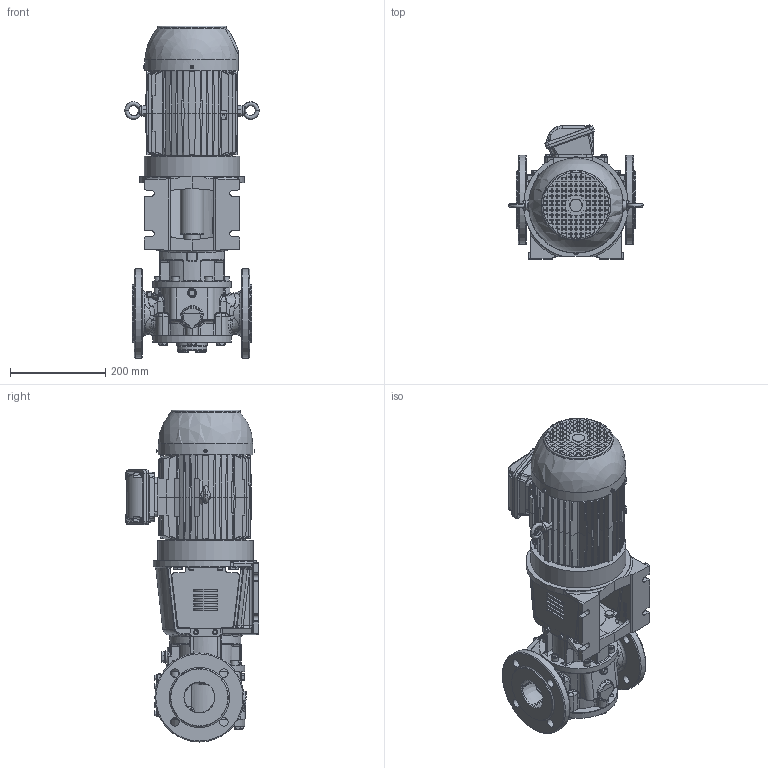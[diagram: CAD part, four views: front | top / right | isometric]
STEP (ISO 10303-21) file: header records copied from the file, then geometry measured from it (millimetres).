
FILE_DESCRIPTION(/* description */ (''),/* implementation_level */ '2;1');
FILE_NAME(/* name */ 'C:\V\JPP\Designs\GEAR PUMPS\PRODUCT ENGINEERING\EUROPE\TG BLOC\TG BLOC_23-65_R5_O_NRV-_100L-STEP.stp',/* time_stamp */ '2021-03-18T14:41:16+01:00',/* author */ ('A77THR'),/* organization */ (''),/* preprocessor_version */ 'ST-DEVELOPER v18.1',/* originating_system */ 'Autodesk Inventor 2020',/* authorisation */ '');
FILE_SCHEMA (('AUTOMOTIVE_DESIGN { 1 0 10303 214 3 1 1 }'));
Length unit declared in the file: millimetre
Products named in the file (1): TG BLOC_23-65_R5_O_NRV-_100L
Bounding box: 281.98 x 281.02 x 697.1 mm (x, y, z)
Volume: 15050681.3 mm3; surface area: 1060448.8 mm2
Topology: 1 solids, 1 shells, 4207 faces, 10778 edges, 6773 vertices
Faces by surface type: plane 2222, bspline 893, cylinder 586, cone 331, torus 119, sphere 56
Full cylindrical faces by diameter (mm): 3.15 x1, 4.5 x4, 4.917 x4, 5 x2, 5.459 x14, 6 x16, 6.647 x1, 7 x14, 8.376 x5, 8.5 x2, 8.7 x14, 9.188 x4, 10 x12, 10.5 x1, 11.445 x2, 11.5 x4, 12 x4, 15.011 x3, 15.4 x14, 16 x6, 17.9 x3, 18 x11, 19 x3, 21.939 x1, 25.9 x1, 26 x2, 27.6 x1, 28 x1, 29.4 x1, 30 x1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
Entity records: 180696 total; most frequent: CARTESIAN_POINT 81638, ORIENTED_EDGE 21344, DIRECTION 17355, EDGE_CURVE 10672, VERTEX_POINT 6773, AXIS2_PLACEMENT_3D 6033, LINE 5289, VECTOR 5289
